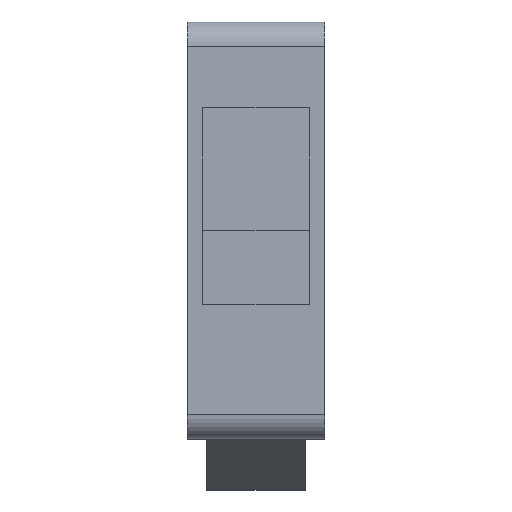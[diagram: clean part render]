
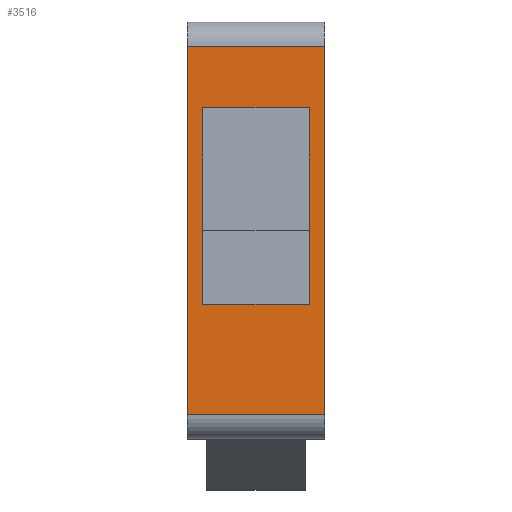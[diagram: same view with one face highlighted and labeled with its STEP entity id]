
A CAD part, top view. The second image highlights one B-rep face of the part: STEP entity #3516.
In plain terms, the highlighted planar face has unit normal (0, 0, 1).
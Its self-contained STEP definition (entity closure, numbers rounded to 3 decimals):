
#1404 = CARTESIAN_POINT ( 'NONE',  ( -4.35, 25.5, 1.5 ) ) ;
#1405 = CARTESIAN_POINT ( 'NONE',  ( 4.35, 25.5, 1.5 ) ) ;
#1406 = DIRECTION ( 'NONE',  ( -1., 0., 0. ) ) ;
#1407 = VECTOR ( 'NONE', #1406, 1000. ) ;
#1408 = CARTESIAN_POINT ( 'NONE',  ( 4.35, 25.5, 1.5 ) ) ;
#1409 = LINE ( 'NONE', #1408, #1407 ) ;
#1410 = DIRECTION ( 'NONE',  ( 0., 1., 0. ) ) ;
#1411 = DIRECTION ( 'NONE',  ( 0., 0., -1. ) ) ;
#1412 = CARTESIAN_POINT ( 'NONE',  ( 5.6, 32.5, 1.5 ) ) ;
#1413 = AXIS2_PLACEMENT_3D ( 'NONE', #1412, #1411, #1410 ) ;
#1414 = PLANE ( 'NONE',  #1413 ) ;
#1415 = FACE_OUTER_BOUND ( 'NONE', #3579, .T. ) ;
#1416 = FACE_BOUND ( 'NONE', #3517, .T. ) ;
#1466 = CARTESIAN_POINT ( 'NONE',  ( -4.35, 9.5, 1.5 ) ) ;
#1467 = CARTESIAN_POINT ( 'NONE',  ( 4.35, 9.5, 1.5 ) ) ;
#1468 = DIRECTION ( 'NONE',  ( 0., 1., 0. ) ) ;
#1469 = VECTOR ( 'NONE', #1468, 1000. ) ;
#1470 = CARTESIAN_POINT ( 'NONE',  ( 4.35, 25.5, 1.5 ) ) ;
#1471 = LINE ( 'NONE', #1470, #1469 ) ;
#1480 = DIRECTION ( 'NONE',  ( -1., 0., 0. ) ) ;
#1481 = VECTOR ( 'NONE', #1480, 1000. ) ;
#1482 = CARTESIAN_POINT ( 'NONE',  ( 5.6, 30.5, 1.5 ) ) ;
#1483 = LINE ( 'NONE', #1482, #1481 ) ;
#1484 = CARTESIAN_POINT ( 'NONE',  ( 5.6, 30.5, 1.5 ) ) ;
#1505 = CARTESIAN_POINT ( 'NONE',  ( 5.6, 0.5, 1.5 ) ) ;
#1506 = DIRECTION ( 'NONE',  ( 1., 0., 0. ) ) ;
#1507 = VECTOR ( 'NONE', #1506, 1000. ) ;
#1508 = CARTESIAN_POINT ( 'NONE',  ( 5.6, 0.5, 1.5 ) ) ;
#1509 = LINE ( 'NONE', #1508, #1507 ) ;
#1510 = CARTESIAN_POINT ( 'NONE',  ( -5.6, 0.5, 1.5 ) ) ;
#1511 = CARTESIAN_POINT ( 'NONE',  ( -5.6, 30.5, 1.5 ) ) ;
#1512 = DIRECTION ( 'NONE',  ( 0., -1., 0. ) ) ;
#1513 = VECTOR ( 'NONE', #1512, 1000. ) ;
#1514 = CARTESIAN_POINT ( 'NONE',  ( -5.6, 32.5, 1.5 ) ) ;
#1515 = LINE ( 'NONE', #1514, #1513 ) ;
#1516 = DIRECTION ( 'NONE',  ( 0., -1., 0. ) ) ;
#1517 = VECTOR ( 'NONE', #1516, 1000. ) ;
#1518 = CARTESIAN_POINT ( 'NONE',  ( -4.35, 25.5, 1.5 ) ) ;
#1519 = LINE ( 'NONE', #1518, #1517 ) ;
#1520 = DIRECTION ( 'NONE',  ( 1., 0., 0. ) ) ;
#1521 = VECTOR ( 'NONE', #1520, 1000. ) ;
#1522 = CARTESIAN_POINT ( 'NONE',  ( 4.35, 9.5, 1.5 ) ) ;
#1523 = LINE ( 'NONE', #1522, #1521 ) ;
#1564 = DIRECTION ( 'NONE',  ( 0., -1., 0. ) ) ;
#1565 = VECTOR ( 'NONE', #1564, 1000. ) ;
#1566 = CARTESIAN_POINT ( 'NONE',  ( 5.6, 32.5, 1.5 ) ) ;
#1567 = LINE ( 'NONE', #1566, #1565 ) ;
#3516 = ADVANCED_FACE ( 'NONE', ( #1416, #1415 ), #1414, .F. ) ;
#3517 = EDGE_LOOP ( 'NONE', ( #3518, #3522, #3575, #3577 ) ) ;
#3518 = ORIENTED_EDGE ( 'NONE', *, *, #3519, .F. ) ;
#3519 = EDGE_CURVE ( 'NONE', #3520, #3521, #1409, .T. ) ;
#3520 = VERTEX_POINT ( 'NONE', #1405 ) ;
#3521 = VERTEX_POINT ( 'NONE', #1404 ) ;
#3522 = ORIENTED_EDGE ( 'NONE', *, *, #3523, .F. ) ;
#3523 = EDGE_CURVE ( 'NONE', #3524, #3520, #1471, .T. ) ;
#3524 = VERTEX_POINT ( 'NONE', #1467 ) ;
#3525 = VERTEX_POINT ( 'NONE', #1466 ) ;
#3560 = VERTEX_POINT ( 'NONE', #1484 ) ;
#3561 = ORIENTED_EDGE ( 'NONE', *, *, #3562, .T. ) ;
#3562 = EDGE_CURVE ( 'NONE', #3560, #3582, #1483, .T. ) ;
#3575 = ORIENTED_EDGE ( 'NONE', *, *, #3576, .F. ) ;
#3576 = EDGE_CURVE ( 'NONE', #3525, #3524, #1523, .T. ) ;
#3577 = ORIENTED_EDGE ( 'NONE', *, *, #3578, .F. ) ;
#3578 = EDGE_CURVE ( 'NONE', #3521, #3525, #1519, .T. ) ;
#3579 = EDGE_LOOP ( 'NONE', ( #3580, #3584, #3587, #3561 ) ) ;
#3580 = ORIENTED_EDGE ( 'NONE', *, *, #3581, .T. ) ;
#3581 = EDGE_CURVE ( 'NONE', #3582, #3583, #1515, .T. ) ;
#3582 = VERTEX_POINT ( 'NONE', #1511 ) ;
#3583 = VERTEX_POINT ( 'NONE', #1510 ) ;
#3584 = ORIENTED_EDGE ( 'NONE', *, *, #3585, .T. ) ;
#3585 = EDGE_CURVE ( 'NONE', #3583, #3586, #1509, .T. ) ;
#3586 = VERTEX_POINT ( 'NONE', #1505 ) ;
#3587 = ORIENTED_EDGE ( 'NONE', *, *, #3588, .F. ) ;
#3588 = EDGE_CURVE ( 'NONE', #3560, #3586, #1567, .T. ) ;
